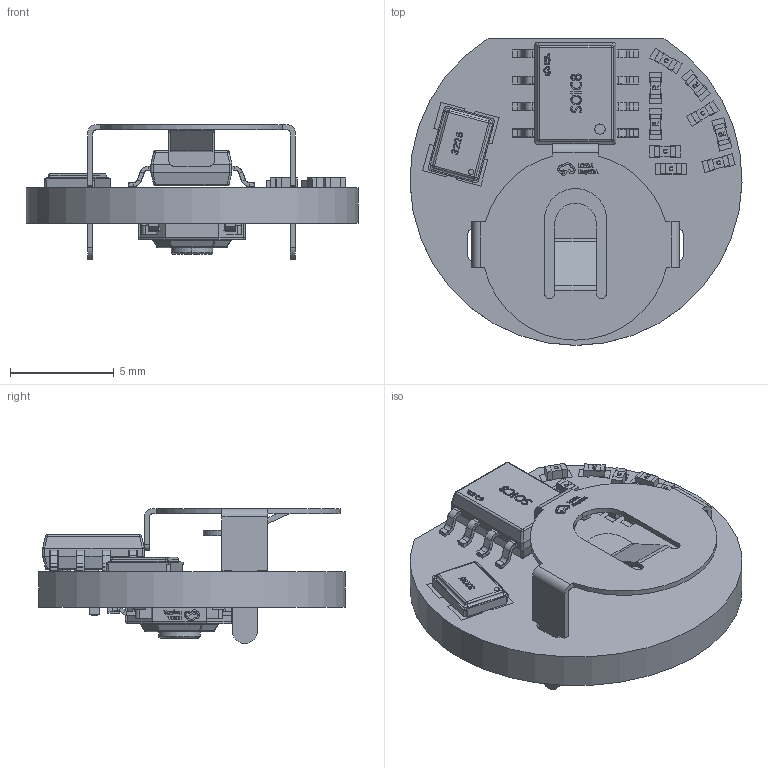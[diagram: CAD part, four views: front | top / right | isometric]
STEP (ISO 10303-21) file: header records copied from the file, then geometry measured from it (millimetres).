
FILE_DESCRIPTION(('Open CASCADE Model'),'2;1');
FILE_NAME('Open CASCADE Shape Model','2024-10-18T14:29:50',('Author'),( 'Open CASCADE'),'Open CASCADE STEP processor 7.5','Open CASCADE 7.5' ,'Unknown');
FILE_SCHEMA(('AUTOMOTIVE_DESIGN { 1 0 10303 214 1 1 1 1 }'));
Length unit declared in the file: millimetre
Products named in the file (63): PCB; Board; Open CASCADE STEP translator 7.5 1.1.1; SW2; SW-SMD_4P-L5.2-W5.2-H1.5-LS6.4-P3.70; SW1; SW-SMD_4P-L4.8-W4.8-H0.55-P2.70-LS4.6-TL; U1; SOIC-8_L4.9-W3.9-H1.7-LS6.0-P1.27; R2; 0402_R; 6637175584; Extruded; 6637175344; R1; 6637172304; 6637172544; L3; 11680622656; 11680619616; L2; 11680629056; 11680631296; L1; JZ1; OSC 3225-4P; Designator583; OSC_3225-4; 11680614816; D1; 6637171504; 6637171664; 6637171904; 6637172144; C5; 0402_C; 11680614896; C4; 11680619056; C3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
Assembly tree (83 placements, depth 6):
  PCB
    Board
      Open CASCADE STEP translator 7.5 1.1.1
    SW2
      SW-SMD_4P-L5.2-W5.2-H1.5-LS6.4-P3.70
    SW1
      SW-SMD_4P-L4.8-W4.8-H0.55-P2.70-LS4.6-TL
    U1
      SOIC-8_L4.9-W3.9-H1.7-LS6.0-P1.27
    R2
      0402_R
      6637175584
        Extruded
      6637175344
        Extruded
    R1
      0402_R
      6637172304
        Extruded
      6637172544
        Extruded
    L3
      0402_R
      11680622656
        Extruded
      11680619616
        Extruded
    L2
      0402_R
      11680629056
        Extruded
      11680631296
        Extruded
    L1
      0402_R
      6637175584
        Extruded
      6637175344
        Extruded
    JZ1
      OSC 3225-4P
        Designator583
          OSC_3225-4
            OSC_3225-4
      11680614816  x4
        Extruded
    D1
      6637171504
        Extruded
      6637171664
        Extruded
      6637171904  x2
        Extruded
      6637172144  x2
        Extruded
    C5
      0402_C
      11680614896  x2
        Extruded
    C4
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Bounding box: 16 x 14.79 x 6.51 mm (x, y, z)
Volume: 418.9 mm3; surface area: 1071.8 mm2
Topology: 106 solids, 106 shells, 2770 faces, 6820 edges, 4280 vertices
Faces by surface type: plane 1575, bspline 548, cylinder 415, sphere 96, extrusion 70, torus 66
Full cylindrical faces by diameter (mm): 0.9 x1
Entity records: 92328 total; most frequent: CARTESIAN_POINT 24834, ORIENTED_EDGE 11440, DIRECTION 9056, EDGE_CURVE 5720, VECTOR 3808, LINE 3794, VERTEX_POINT 3624, AXIS2_PLACEMENT_3D 2624
